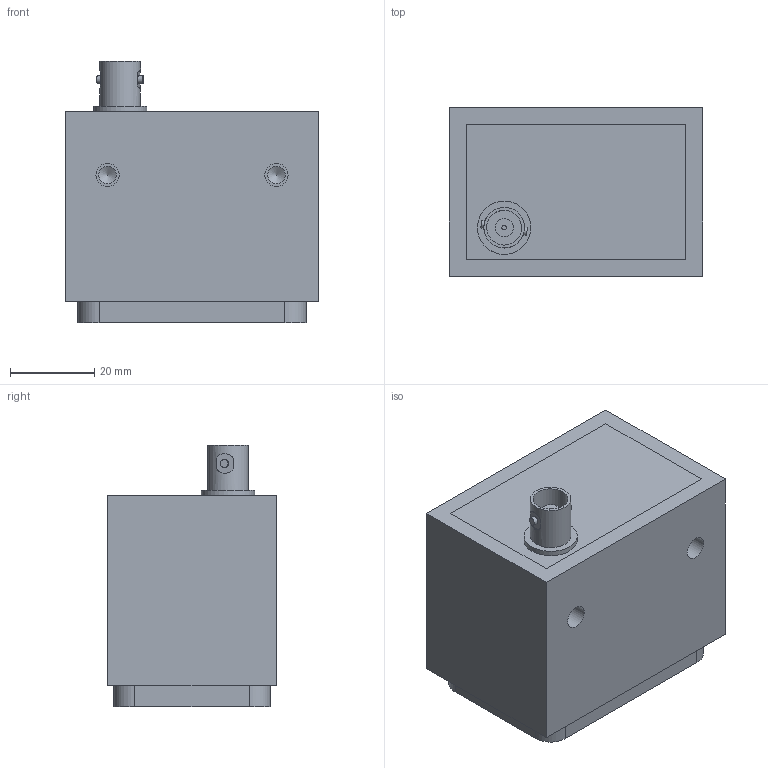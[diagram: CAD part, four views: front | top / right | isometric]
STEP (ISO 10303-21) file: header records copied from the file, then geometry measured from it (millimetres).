
FILE_DESCRIPTION(/* description */ (''),/* implementation_level */ '2;1');
FILE_NAME(/* name */ 'F:\daten\PRODUKTE\TELEMETR\A\Mechanik\CAD\8C\8C\8C\Antenne_8C.stp',/* time_stamp */ '2015-06-11T16:00:05+02:00',/* author */ ('Marquardt'),/* organization */ (''),/* preprocessor_version */ 'ST-DEVELOPER v15.6',/* originating_system */ 'Autodesk Inventor 2015',/* authorisation */ '');
FILE_SCHEMA (('AUTOMOTIVE_DESIGN { 1 0 10303 214 3 1 1 }'));
Products named in the file (5): Antennengehaeuse_8C; Verguß; SW3dPS-BNC Panel Mount; ISO 7046-1 - M2,5 x 3 - 4.8 - HISO; Antenne_8C
Bounding box: 60 x 40 x 61.95 mm (x, y, z)
Volume: 117708.3 mm3; surface area: 32510.9 mm2
Topology: 4 solids, 4 shells, 103 faces, 241 edges, 159 vertices
Faces by surface type: plane 50, cylinder 32, cone 17, torus 4
Full cylindrical faces by diameter (mm): 0.686 x1, 1.067 x1, 1.88 x2, 2.108 x1, 2.224 x1, 2.5 x1, 2.7 x1, 4.134 x2, 4.318 x1, 4.7 x1, 5.359 x1, 5.5 x2, 8.255 x1, 9.423 x1, 9.614 x1, 10 x1, 12.636 x1
Entity records: 3037 total; most frequent: CARTESIAN_POINT 662, DIRECTION 478, ORIENTED_EDGE 406, EDGE_CURVE 203, AXIS2_PLACEMENT_3D 191, EDGE_LOOP 154, VERTEX_POINT 151, FACE_OUTER_BOUND 103
